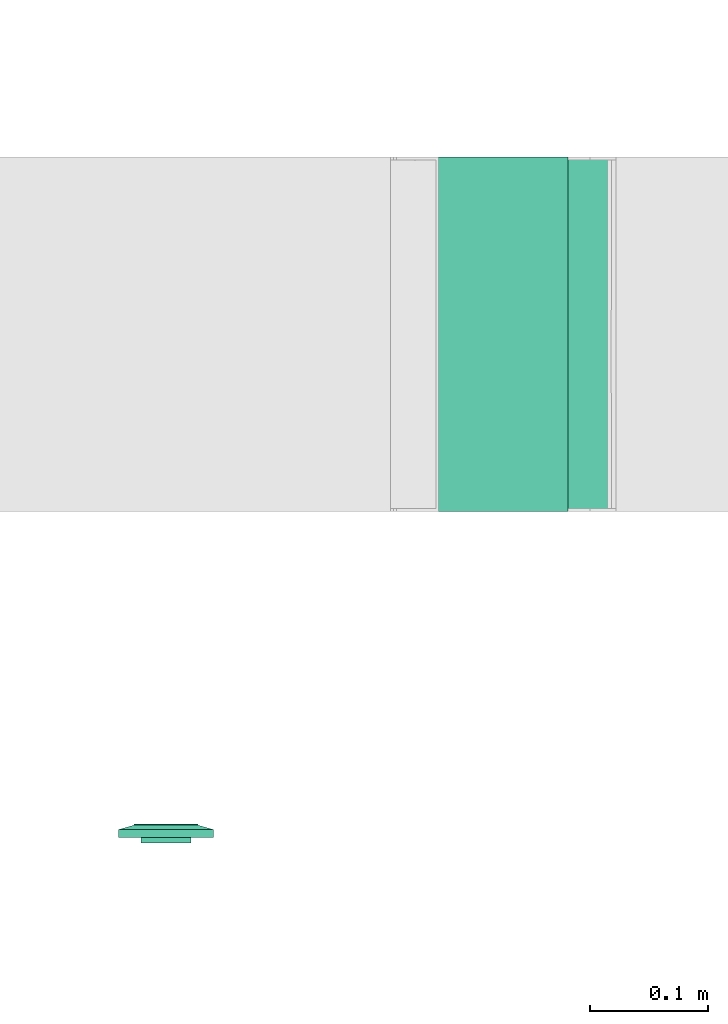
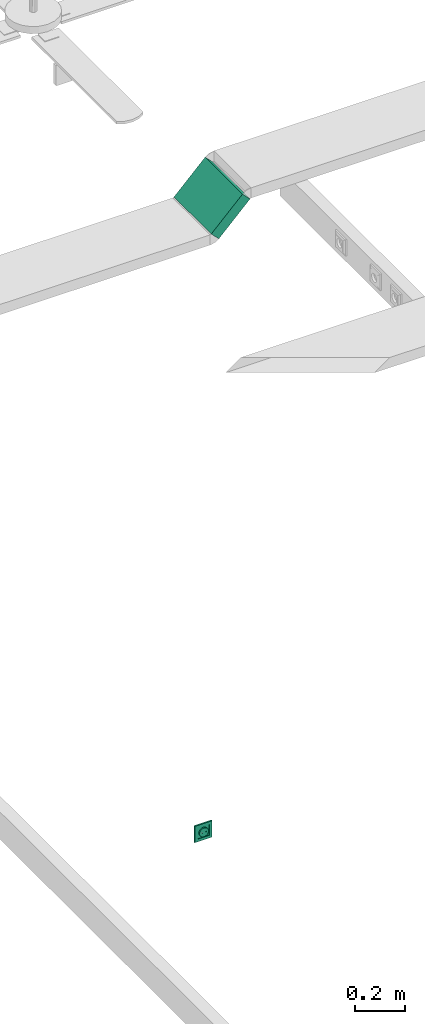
# One storey, part 28 of 166: 1 flow segment, 1 flow terminal.
"""IFC2X3 building model written with IfcOpenShell, lengths in metres."""

from ifc_helpers import new_model, entity, si_unit, converted_unit, derived_unit, direction, frame, frame_2d, origin, place, context, subcontext, project, spatial, rectangle, extrude, face_set, surface_model, source, transform, mapped, type_object, type_shapes, element, save


model = new_model("IFC2X3")

# Units and contexts
model_context = context("Model", 3, precision=1e-05, world=origin(), true_north=direction((6.12303176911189e-17, 1.0)))
body_context = subcontext(model_context, "Body", "Model", "MODEL_VIEW")
ifc_project = project(units=[si_unit("LENGTHUNIT", "METRE"), si_unit("AREAUNIT", "SQUARE_METRE"), si_unit("VOLUMEUNIT", "CUBIC_METRE"), converted_unit("PLANEANGLEUNIT", "DEGREE", entity("IfcRatioMeasure", 0.0174532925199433), si_unit("PLANEANGLEUNIT", "RADIAN"), dimensions=[0, 0, 0, 0, 0, 0, 0]), si_unit("MASSUNIT", "GRAM", prefix="KILO"), derived_unit("MASSDENSITYUNIT", [(si_unit("MASSUNIT", "GRAM", prefix="KILO"), 1), (si_unit("LENGTHUNIT", "METRE"), -3)]), si_unit("TIMEUNIT", "SECOND"), si_unit("FREQUENCYUNIT", "HERTZ"), si_unit("THERMODYNAMICTEMPERATUREUNIT", "DEGREE_CELSIUS"), derived_unit("THERMALTRANSMITTANCEUNIT", [(si_unit("MASSUNIT", "GRAM", prefix="KILO"), 1), (si_unit("THERMODYNAMICTEMPERATUREUNIT", "KELVIN"), -1), (si_unit("TIMEUNIT", "SECOND"), -3)]), derived_unit("VOLUMETRICFLOWRATEUNIT", [(si_unit("LENGTHUNIT", "METRE"), 3), (si_unit("TIMEUNIT", "SECOND"), -1)]), si_unit("ELECTRICCURRENTUNIT", "AMPERE"), si_unit("ELECTRICVOLTAGEUNIT", "VOLT"), si_unit("POWERUNIT", "WATT"), si_unit("FORCEUNIT", "NEWTON"), si_unit("ILLUMINANCEUNIT", "LUX"), si_unit("LUMINOUSFLUXUNIT", "LUMEN"), si_unit("LUMINOUSINTENSITYUNIT", "CANDELA"), derived_unit("USERDEFINED", [(si_unit("MASSUNIT", "GRAM", prefix="KILO"), -1), (si_unit("LENGTHUNIT", "METRE"), -2), (si_unit("TIMEUNIT", "SECOND"), 3), (si_unit("LUMINOUSFLUXUNIT", "LUMEN"), 1)]), derived_unit("LINEARVELOCITYUNIT", [(si_unit("LENGTHUNIT", "METRE"), 1), (si_unit("TIMEUNIT", "SECOND"), -1)]), si_unit("PRESSUREUNIT", "PASCAL"), derived_unit("USERDEFINED", [(si_unit("LENGTHUNIT", "METRE"), -2), (si_unit("MASSUNIT", "GRAM", prefix="KILO"), 1), (si_unit("TIMEUNIT", "SECOND"), -2)])], contexts=[model_context])

# Site, building, storey
site_placement = place(None, origin())
site = spatial("IfcSite", under=ifc_project, at=site_placement, Name="Default", CompositionType="ELEMENT")
building_placement = place(site_placement, origin())
building = spatial("IfcBuilding", under=site, at=building_placement, CompositionType="ELEMENT")
storey_placement = place(building_placement, frame((0.0, 0.0, 4.27)))
storey = spatial("IfcBuildingStorey", under=building, at=storey_placement, Name="01", CompositionType="ELEMENT", Elevation=4.27)

# Flow segment
cable_carrier_segment_type = type_object("IfcCableCarrierSegmentType", Name="Cable Tray with Fittings:Chemins de câbles en treillis_Chemins de câbles en treillis", PredefinedType="NOTDEFINED")
flow_segment_placement = place(storey_placement, origin())
element("IfcFlowSegment", 1, at=flow_segment_placement, inside=storey, type_object=cable_carrier_segment_type, Name="Cable Tray with Fittings:Chemins de câbles en treillis_Chemins de câbles en treillis", ObjectType="Cable Tray with Fittings:Chemins de câbles en treillis_Chemins de câbles en treillis", context=body_context, shape_type="SweptSolid", body=[
    extrude(rectangle(XDim=0.0500000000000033, YDim=0.205056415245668, at=frame_2d((1.9151347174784e-15, 1.15012166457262e-15), x_axis=(0.0, 1.0))), frame((27.4054012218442, -188.237883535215, 2.7529732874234), z_axis=(0.0, 1.0, 0.0), x_axis=(-0.707106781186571, 0.0, -0.707106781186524)), (0.0, 0.0, 1.0), 0.300000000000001),
])

# Flow terminal
light_fixture_type = type_object("IfcLightFixtureType", Name="Attente", PredefinedType="NOTDEFINED")
shared_shape = source(origin(), body_context, "Body", "SurfaceModel", [
    surface_model("IfcFaceBasedSurfaceModel", [(0.00225000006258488, 0.00949633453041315, 0.0127499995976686), (0.0, 0.00949633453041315, 0.0104999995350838), (0.0, 0.0101656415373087, 0.0115376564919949), (0.0, 0.0101656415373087, 0.0139623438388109), (0.0, 0.00984531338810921, 0.0144589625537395), (0.0, 0.0102778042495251, 0.0121178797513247), (0.0, 0.0102778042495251, 0.0133821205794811), (0.0, 0.010399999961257, 0.0127499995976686), (0.0, 0.00949633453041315, 0.0149999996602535), (-0.00225000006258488, 0.00949633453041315, 0.0127499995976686), (0.0, 0.00984531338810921, 0.0110410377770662), (0.0, 0.00949633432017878, 0.0127499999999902), (-0.0022499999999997, 0.0094963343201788, 0.0127499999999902), (-0.00217333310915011, 0.00949633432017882, 0.0121676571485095), (-0.0019485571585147, 0.00949633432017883, 0.0116249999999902), (-0.00159099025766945, 0.00949633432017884, 0.0111590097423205), (-0.00112499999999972, 0.00949633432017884, 0.0108014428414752), (-0.000582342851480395, 0.00949633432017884, 0.0105766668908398), (0.0, 0.00949633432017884, 0.0104999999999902), (0.000582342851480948, 0.00949633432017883, 0.0105766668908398), (0.00112500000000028, 0.00949633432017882, 0.0108014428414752), (0.00159099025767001, 0.00949633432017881, 0.0111590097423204), (0.00194855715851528, 0.00949633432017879, 0.0116249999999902), (0.0021733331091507, 0.00949633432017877, 0.0121676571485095), (0.0022500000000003, 0.00949633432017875, 0.0127499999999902), (0.00217333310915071, 0.00949633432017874, 0.0133323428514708), (0.0019485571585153, 0.00949633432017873, 0.0138749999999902), (0.00159099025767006, 0.00949633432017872, 0.0143409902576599), (0.00112500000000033, 0.00949633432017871, 0.0146985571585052), (0.000582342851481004, 0.00949633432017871, 0.0149233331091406), (0.0, 0.00949633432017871, 0.0149999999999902), (-0.000582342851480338, 0.00949633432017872, 0.0149233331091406), (-0.00112499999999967, 0.00949633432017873, 0.0146985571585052), (-0.00159099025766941, 0.00949633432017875, 0.0143409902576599), (-0.00194855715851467, 0.00949633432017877, 0.0138749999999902), (-0.00217333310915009, 0.00949633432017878, 0.0133323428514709), (-0.00224999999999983, -0.00360000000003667, 0.0127499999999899), (-0.00217333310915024, -0.00360000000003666, 0.0121676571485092), (-0.00194855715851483, -0.00360000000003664, 0.0116249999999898), (-0.00159099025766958, -0.00360000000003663, 0.0111590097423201), (-0.00112499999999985, -0.00360000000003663, 0.0108014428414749), (-0.000582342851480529, -0.00360000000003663, 0.0105766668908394), (0.0, -0.00360000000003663, 0.0104999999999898), (0.000582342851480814, -0.00360000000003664, 0.0105766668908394), (0.00112500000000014, -0.00360000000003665, 0.0108014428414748), (0.00159099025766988, -0.00360000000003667, 0.0111590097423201), (0.00194855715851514, -0.00360000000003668, 0.0116249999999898), (0.00217333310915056, -0.0036000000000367, 0.0121676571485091), (0.00225000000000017, -0.00360000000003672, 0.0127499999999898), (0.00217333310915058, -0.00360000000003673, 0.0133323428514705), (0.00194855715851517, -0.00360000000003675, 0.0138749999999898), (0.00159099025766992, -0.00360000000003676, 0.0143409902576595), (0.00112500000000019, -0.00360000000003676, 0.0146985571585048), (0.00058234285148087, -0.00360000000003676, 0.0149233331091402), (0.0, -0.00360000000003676, 0.0149999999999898), (-0.000582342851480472, -0.00360000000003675, 0.0149233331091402), (-0.0011249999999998, -0.00360000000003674, 0.0146985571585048), (-0.00159099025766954, -0.00360000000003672, 0.0143409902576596), (-0.0019485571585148, -0.00360000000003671, 0.0138749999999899), (-0.00217333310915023, -0.00360000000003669, 0.0133323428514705), (-0.0270000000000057, 0.0113999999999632, 0.0269999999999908), (0.0269999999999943, 0.0113999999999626, 0.0269999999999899), (0.0269999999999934, 0.0113999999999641, -0.0270000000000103), (-0.0270000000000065, 0.0113999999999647, -0.0270000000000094), (0.0199999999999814, 0.0113999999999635, 0.0), (0.0193185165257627, 0.0113999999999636, -0.00517638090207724), (0.0173205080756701, 0.0113999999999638, -0.0100000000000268), (0.0141421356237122, 0.0113999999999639, -0.0141421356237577), (0.00999999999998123, 0.011399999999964, -0.0173205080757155), (0.00517638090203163, 0.0113999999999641, -0.019318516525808), (0.0, 0.0113999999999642, -0.0200000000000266), (-0.00517638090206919, 0.0113999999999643, -0.0193185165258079), (-0.0100000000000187, 0.0113999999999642, -0.0173205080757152), (-0.0141421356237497, 0.0113999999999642, -0.0141421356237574), (-0.0173205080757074, 0.0113999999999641, -0.0100000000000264), (-0.0193185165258, 0.011399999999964, -0.0051763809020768), (-0.0200000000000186, 0.0113999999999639, 0.0), (-0.0193185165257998, 0.0113999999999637, 0.00517638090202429), (-0.0173205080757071, 0.0113999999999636, 0.00999999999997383), (-0.0141421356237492, 0.0113999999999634, 0.0141421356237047), (-0.0100000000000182, 0.0113999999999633, 0.0173205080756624), (-0.00517638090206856, 0.0113999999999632, 0.0193185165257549), (0.0, 0.0113999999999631, 0.0199999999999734), (0.00517638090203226, 0.0113999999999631, 0.0193185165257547), (0.0099999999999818, 0.0113999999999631, 0.017320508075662), (0.0141421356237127, 0.0113999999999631, 0.0141421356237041), (0.0173205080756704, 0.0113999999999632, 0.00999999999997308), (0.0193185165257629, 0.0113999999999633, 0.00517638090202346), (-0.0270000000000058, 0.00199999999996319, 0.0269999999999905), (-0.0270000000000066, 0.00199999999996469, -0.0270000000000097), (0.0269999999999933, 0.00199999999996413, -0.0270000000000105), (0.0269999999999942, 0.00199999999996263, 0.0269999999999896), (-0.0210000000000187, 0.00199999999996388, 0.0), (-0.0202844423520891, 0.00199999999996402, -0.00543519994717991), (-0.0181865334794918, 0.00199999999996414, -0.0105000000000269), (-0.0148492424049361, 0.00199999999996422, -0.0148492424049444), (-0.0105000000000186, 0.00199999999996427, -0.0181865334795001), (-0.00543519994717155, 0.00199999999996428, -0.0202844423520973), (0.0, 0.00199999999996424, -0.0210000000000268), (0.00543519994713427, 0.00199999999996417, -0.0202844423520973), (0.0104999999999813, 0.00199999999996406, -0.0181865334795), (0.0148492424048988, 0.00199999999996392, -0.0148492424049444), (0.0181865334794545, 0.00199999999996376, -0.0105000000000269), (0.0202844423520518, 0.0019999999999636, -0.00543519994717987), (0.0209999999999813, 0.00199999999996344, 0.0), (0.0202844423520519, 0.0019999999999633, 0.0054351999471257), (0.0181865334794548, 0.00199999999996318, 0.0104999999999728), (0.0148492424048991, 0.00199999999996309, 0.0148492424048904), (0.0104999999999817, 0.00199999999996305, 0.0181865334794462), (0.00543519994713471, 0.00199999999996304, 0.0202844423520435), (0.0, 0.00199999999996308, 0.0209999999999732), (-0.00543519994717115, 0.00199999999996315, 0.0202844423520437), (-0.0105000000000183, 0.00199999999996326, 0.0181865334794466), (-0.0148492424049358, 0.0019999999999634, 0.014849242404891), (-0.0181865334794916, 0.00199999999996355, 0.0104999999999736), (-0.020284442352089, 0.00199999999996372, 0.00543519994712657), (-0.0200000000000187, -0.00360000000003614, 0.0), (-0.0193185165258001, -0.003600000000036, -0.00517638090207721), (-0.0173205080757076, -0.00360000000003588, -0.0100000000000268), (-0.0141421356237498, -0.0036000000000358, -0.0141421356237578), (-0.0100000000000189, -0.00360000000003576, -0.0173205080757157), (-0.00517638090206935, -0.00360000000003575, -0.0193185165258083), (0.0, -0.00360000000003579, -0.020000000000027), (0.00517638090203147, -0.00360000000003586, -0.0193185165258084), (0.00999999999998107, -0.00360000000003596, -0.0173205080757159), (0.0141421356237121, -0.00360000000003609, -0.0141421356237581), (0.0173205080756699, -0.00360000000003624, -0.0100000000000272), (0.0193185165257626, -0.0036000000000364, -0.00517638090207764), (0.0199999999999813, -0.00360000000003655, 0.0), (0.0193185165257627, -0.00360000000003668, 0.00517638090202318), (0.0173205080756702, -0.0036000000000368, 0.00999999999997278), (0.0141421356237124, -0.00360000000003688, 0.0141421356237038), (0.00999999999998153, -0.00360000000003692, 0.0173205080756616), (0.00517638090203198, -0.00360000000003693, 0.0193185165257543), (0.0, -0.0036000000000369, 0.019999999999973), (-0.00517638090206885, -0.00360000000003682, 0.0193185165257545), (-0.0100000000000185, -0.00360000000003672, 0.0173205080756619), (-0.0141421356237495, -0.00360000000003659, 0.0141421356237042), (-0.0173205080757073, -0.00360000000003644, 0.00999999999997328), (-0.0193185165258, -0.00360000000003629, 0.00517638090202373), (0.0123499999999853, -0.00360000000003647, 0.0), (0.0122562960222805, -0.00360000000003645, -0.000711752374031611), (0.0119815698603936, -0.00360000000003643, -0.00137499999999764), (0.0115445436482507, -0.00360000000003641, -0.00194454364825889), (0.0109749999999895, -0.00360000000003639, -0.00238156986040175), (0.0103117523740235, -0.00360000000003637, -0.00265629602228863), (0.00959999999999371, -0.00360000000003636, -0.00274999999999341), (0.00888824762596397, -0.00360000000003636, -0.00265629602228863), (0.00822499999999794, -0.00360000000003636, -0.00238156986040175), (0.00765545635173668, -0.00360000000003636, -0.00194454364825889), (0.00721843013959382, -0.00360000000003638, -0.00137499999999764), (0.00694370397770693, -0.00360000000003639, -0.000711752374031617), (0.00685000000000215, -0.00360000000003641, 0.0), (0.00694370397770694, -0.00360000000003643, 0.000711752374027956), (0.00721843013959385, -0.00360000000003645, 0.00137499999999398), (0.00765545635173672, -0.00360000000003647, 0.00194454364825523), (0.00822499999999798, -0.00360000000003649, 0.00238156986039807), (0.00888824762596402, -0.00360000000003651, 0.00265629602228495), (0.00959999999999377, -0.00360000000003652, 0.0027499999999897), (0.0103117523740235, -0.00360000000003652, 0.00265629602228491), (0.0109749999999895, -0.00360000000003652, 0.00238156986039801), (0.0115445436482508, -0.00360000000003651, 0.00194454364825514), (0.0119815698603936, -0.0036000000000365, 0.00137499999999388), (0.0122562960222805, -0.00360000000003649, 0.000711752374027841), (-0.00685000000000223, -0.00360000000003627, 0.0), (-0.00694370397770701, -0.00360000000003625, -0.000711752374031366), (-0.0072184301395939, -0.00360000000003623, -0.00137499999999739), (-0.00765545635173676, -0.00360000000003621, -0.00194454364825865), (-0.00822499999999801, -0.00360000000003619, -0.0023815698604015), (-0.00888824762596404, -0.00360000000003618, -0.00265629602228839), (-0.00959999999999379, -0.00360000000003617, -0.00274999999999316), (-0.0103117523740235, -0.00360000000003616, -0.00265629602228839), (-0.0109749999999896, -0.00360000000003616, -0.00238156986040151), (-0.0115445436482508, -0.00360000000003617, -0.00194454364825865), (-0.0119815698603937, -0.00360000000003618, -0.0013749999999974), (-0.0122562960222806, -0.0036000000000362, -0.000711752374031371), (-0.0123499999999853, -0.00360000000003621, 0.0), (-0.0122562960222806, -0.00360000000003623, 0.000711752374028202), (-0.0119815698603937, -0.00360000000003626, 0.00137499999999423), (-0.0115445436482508, -0.00360000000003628, 0.00194454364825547), (-0.0109749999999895, -0.00360000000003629, 0.00238156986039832), (-0.0103117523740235, -0.00360000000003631, 0.00265629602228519), (-0.00959999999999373, -0.00360000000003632, 0.00274999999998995), (-0.00888824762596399, -0.00360000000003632, 0.00265629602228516), (-0.00822499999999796, -0.00360000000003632, 0.00238156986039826), (-0.00765545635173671, -0.00360000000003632, 0.00194454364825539), (-0.00721843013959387, -0.0036000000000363, 0.00137499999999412), (-0.00694370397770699, -0.00360000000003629, 0.000711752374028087), (-0.0210000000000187, -0.00460000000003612, 0.0), (-0.0202844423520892, -0.00460000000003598, -0.00543519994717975), (-0.018186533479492, -0.00460000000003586, -0.0105000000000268), (-0.0148492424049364, -0.00460000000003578, -0.0148492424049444), (-0.0105000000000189, -0.00460000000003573, -0.0181865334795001), (-0.00543519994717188, -0.00460000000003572, -0.0202844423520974), (0.0, -0.00460000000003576, -0.021000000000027), (0.00543519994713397, -0.00460000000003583, -0.0202844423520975), (0.0104999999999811, -0.00460000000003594, -0.0181865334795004), (0.0148492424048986, -0.00460000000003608, -0.0148492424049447), (0.0181865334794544, -0.00460000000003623, -0.0105000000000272), (0.0202844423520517, -0.0046000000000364, -0.0054351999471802), (0.0209999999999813, -0.00460000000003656, 0.0), (0.0202844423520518, -0.0046000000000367, 0.00543519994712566), (0.0181865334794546, -0.00460000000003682, 0.0104999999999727), (0.014849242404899, -0.00460000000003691, 0.0148492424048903), (0.0104999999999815, -0.00460000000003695, 0.0181865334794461), (0.0054351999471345, -0.00460000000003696, 0.0202844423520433), (0.0, -0.00460000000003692, 0.020999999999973), (-0.00543519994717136, -0.00460000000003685, 0.0202844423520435), (-0.0105000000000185, -0.00460000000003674, 0.0181865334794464), (-0.014849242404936, -0.0046000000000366, 0.0148492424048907), (-0.0181865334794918, -0.00460000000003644, 0.0104999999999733), (-0.0202844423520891, -0.00460000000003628, 0.00543519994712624), (0.00685000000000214, -0.00460000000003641, 0.0), (0.00694370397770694, -0.00460000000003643, 0.000711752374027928), (0.00721843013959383, -0.00460000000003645, 0.00137499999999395), (0.0076554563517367, -0.00460000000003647, 0.0019445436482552), (0.00822499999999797, -0.00460000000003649, 0.00238156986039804), (0.00888824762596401, -0.0046000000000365, 0.00265629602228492), (0.00959999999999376, -0.00460000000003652, 0.00274999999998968), (0.0103117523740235, -0.00460000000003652, 0.00265629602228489), (0.0109749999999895, -0.00460000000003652, 0.00238156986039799), (0.0115445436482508, -0.00460000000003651, 0.00194454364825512), (0.0119815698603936, -0.0046000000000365, 0.00137499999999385), (0.0122562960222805, -0.00460000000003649, 0.000711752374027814), (0.0123499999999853, -0.00460000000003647, 0.0), (0.0122562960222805, -0.00460000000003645, -0.00071175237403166), (0.0119815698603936, -0.00460000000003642, -0.00137499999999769), (0.0115445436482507, -0.0046000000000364, -0.00194454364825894), (0.0109749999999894, -0.00460000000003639, -0.00238156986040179), (0.0103117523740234, -0.00460000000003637, -0.00265629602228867), (0.00959999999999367, -0.00460000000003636, -0.00274999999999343), (0.00888824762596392, -0.00460000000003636, -0.00265629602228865), (0.00822499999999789, -0.00460000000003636, -0.00238156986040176), (0.00765545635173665, -0.00460000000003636, -0.00194454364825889), (0.00721843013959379, -0.00460000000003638, -0.00137499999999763), (0.00694370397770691, -0.00460000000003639, -0.0007117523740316), (-0.0123499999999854, -0.00460000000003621, 0.0), (-0.0122562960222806, -0.00460000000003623, 0.000711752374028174), (-0.0119815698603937, -0.00460000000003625, 0.0013749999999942), (-0.0115445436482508, -0.00460000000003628, 0.00194454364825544), (-0.0109749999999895, -0.00460000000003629, 0.00238156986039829), (-0.0103117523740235, -0.00460000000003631, 0.00265629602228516), (-0.00959999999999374, -0.00460000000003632, 0.00274999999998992), (-0.008888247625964, -0.00460000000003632, 0.00265629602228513), (-0.00822499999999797, -0.00460000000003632, 0.00238156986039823), (-0.00765545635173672, -0.00460000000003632, 0.00194454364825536), (-0.00721843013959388, -0.0046000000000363, 0.0013749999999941), (-0.006943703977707, -0.00460000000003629, 0.000711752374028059), (-0.00685000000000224, -0.00460000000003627, 0.0), (-0.00694370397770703, -0.00460000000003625, -0.000711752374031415), (-0.00721843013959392, -0.00460000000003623, -0.00137499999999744), (-0.00765545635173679, -0.00460000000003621, -0.00194454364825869), (-0.00822499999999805, -0.00460000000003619, -0.00238156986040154), (-0.00888824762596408, -0.00460000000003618, -0.00265629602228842), (-0.00959999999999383, -0.00460000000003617, -0.00274999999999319), (-0.0103117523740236, -0.00460000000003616, -0.00265629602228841), (-0.0109749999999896, -0.00460000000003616, -0.00238156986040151), (-0.0115445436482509, -0.00460000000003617, -0.00194454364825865), (-0.0119815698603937, -0.00460000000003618, -0.00137499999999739), (-0.0122562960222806, -0.00460000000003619, -0.000711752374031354), (-0.0403499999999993, 0.00659999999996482, 0.0403499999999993), (-0.0403500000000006, 0.00659999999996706, -0.0403500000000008), (0.0403499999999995, 0.00659999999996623, -0.0403500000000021), (0.0403500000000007, 0.00659999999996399, 0.040349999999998), (-0.0269999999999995, 0.00659999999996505, 0.026999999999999), (0.0270000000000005, 0.0065999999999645, 0.0269999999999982), (0.0269999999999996, 0.006599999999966, -0.0270000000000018), (-0.0270000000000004, 0.00659999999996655, -0.027000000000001), (-0.0269999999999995, 0.0103999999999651, 0.0269999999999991), (0.0270000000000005, 0.0103999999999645, 0.0269999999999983), (0.0269999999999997, 0.010399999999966, -0.0270000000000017), (-0.0270000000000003, 0.0103999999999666, -0.0270000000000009), (-0.0403499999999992, 0.00659999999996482, 0.0403499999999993), (-0.0403500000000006, 0.00659999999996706, -0.0403500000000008), (0.0403499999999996, 0.00659999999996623, -0.0403500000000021), (0.0403500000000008, 0.00659999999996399, 0.040349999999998), (0.0270000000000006, 0.0065999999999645, 0.0269999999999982), (0.0269999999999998, 0.006599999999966, -0.0270000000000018), (-0.0270000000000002, 0.00659999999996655, -0.027000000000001), (-0.0269999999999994, 0.00659999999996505, 0.026999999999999), (-0.0403499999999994, 0.0, 0.0403499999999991), (-0.0403500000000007, 0.0, -0.040350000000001), (0.0403499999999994, 0.0, -0.0403500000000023), (0.0403500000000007, 0.0, 0.0403499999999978), (-0.0269999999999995, 0.0, 0.0269999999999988), (0.0270000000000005, 0.0, 0.026999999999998), (0.0269999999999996, 0.0, -0.027000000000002), (-0.0270000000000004, 0.0, -0.0270000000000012)], [face_set([[[0, 1, 2]], [[3, 4, 2, 5]], [[6, 3, 5, 7]], [[2, 4, 0]], [[4, 8, 0]], [[3, 9, 8]], [[1, 9, 10]], [[2, 3, 6, 7]], [[3, 10, 9]], [[2, 10, 3]], [[11, 1, 0, 8]], [[11, 8, 9, 1]]]), face_set([[[12, 13, 14, 15, 16, 17, 18, 19, 20, 21, 22, 23, 24, 25, 26, 27, 28, 29, 30, 31, 32, 33, 34, 35]], [[36, 37, 38, 39, 40, 41, 42, 43, 44, 45, 46, 47, 48, 49, 50, 51, 52, 53, 54, 55, 56, 57, 58, 59]], [[48, 47, 23, 24]], [[47, 46, 22, 23]], [[45, 44, 20, 21]], [[46, 45, 21, 22]], [[44, 43, 19, 20]], [[18, 19, 43, 42]], [[42, 41, 17, 18]], [[41, 40, 16, 17]], [[39, 38, 14, 15]], [[40, 39, 15, 16]], [[38, 37, 13, 14]], [[12, 13, 37, 36]], [[36, 59, 35, 12]], [[59, 58, 34, 35]], [[57, 56, 32, 33]], [[58, 57, 33, 34]], [[56, 55, 31, 32]], [[30, 31, 55, 54]], [[54, 53, 29, 30]], [[53, 52, 28, 29]], [[51, 50, 26, 27]], [[52, 51, 27, 28]], [[50, 49, 25, 26]], [[24, 25, 49, 48]]]), face_set([[[60, 61, 62, 63], [64, 65, 66, 67, 68, 69, 70, 71, 72, 73, 74, 75, 76, 77, 78, 79, 80, 81, 82, 83, 84, 85, 86, 87]], [[88, 89, 90, 91], [92, 93, 94, 95, 96, 97, 98, 99, 100, 101, 102, 103, 104, 105, 106, 107, 108, 109, 110, 111, 112, 113, 114, 115]], [[61, 60, 88, 91]], [[62, 61, 91, 90]], [[63, 62, 90, 89]], [[60, 63, 89, 88]], [[116, 117, 118, 119, 120, 121, 122, 123, 124, 125, 126, 127, 128, 129, 130, 131, 132, 133, 134, 135, 136, 137, 138, 139], [140, 141, 142, 143, 144, 145, 146, 147, 148, 149, 150, 151, 152, 153, 154, 155, 156, 157, 158, 159, 160, 161, 162, 163], [164, 165, 166, 167, 168, 169, 170, 171, 172, 173, 174, 175, 176, 177, 178, 179, 180, 181, 182, 183, 184, 185, 186, 187]], [[64, 128, 127, 65]], [[65, 127, 126, 66]], [[67, 125, 124, 68]], [[66, 126, 125, 67]], [[68, 124, 123, 69]], [[122, 70, 69, 123]], [[70, 122, 121, 71]], [[71, 121, 120, 72]], [[73, 119, 118, 74]], [[72, 120, 119, 73]], [[74, 118, 117, 75]], [[116, 76, 75, 117]], [[76, 116, 139, 77]], [[77, 139, 138, 78]], [[79, 137, 136, 80]], [[78, 138, 137, 79]], [[80, 136, 135, 81]], [[134, 82, 81, 135]], [[82, 134, 133, 83]], [[83, 133, 132, 84]], [[84, 132, 131, 85]], [[85, 131, 130, 86]], [[130, 129, 87, 86]], [[64, 87, 129, 128]], [[188, 189, 190, 191, 192, 193, 194, 195, 196, 197, 198, 199, 200, 201, 202, 203, 204, 205, 206, 207, 208, 209, 210, 211], [212, 213, 214, 215, 216, 217, 218, 219, 220, 221, 222, 223, 224, 225, 226, 227, 228, 229, 230, 231, 232, 233, 234, 235], [236, 237, 238, 239, 240, 241, 242, 243, 244, 245, 246, 247, 248, 249, 250, 251, 252, 253, 254, 255, 256, 257, 258, 259]], [[200, 199, 103, 104]], [[199, 198, 102, 103]], [[197, 196, 100, 101]], [[198, 197, 101, 102]], [[196, 195, 99, 100]], [[98, 99, 195, 194]], [[194, 193, 97, 98]], [[193, 192, 96, 97]], [[191, 190, 94, 95]], [[192, 191, 95, 96]], [[190, 189, 93, 94]], [[92, 93, 189, 188]], [[188, 211, 115, 92]], [[211, 210, 114, 115]], [[209, 208, 112, 113]], [[210, 209, 113, 114]], [[208, 207, 111, 112]], [[110, 111, 207, 206]], [[206, 205, 109, 110]], [[205, 204, 108, 109]], [[203, 202, 106, 107]], [[204, 203, 107, 108]], [[202, 201, 105, 106]], [[104, 105, 201, 200]], [[141, 225, 226, 142]], [[140, 224, 225, 141]], [[144, 228, 229, 145]], [[143, 227, 228, 144]], [[142, 226, 227, 143]], [[230, 146, 145, 229]], [[149, 233, 232, 148]], [[148, 232, 231, 147]], [[152, 212, 235, 151]], [[151, 235, 234, 150]], [[150, 234, 233, 149]], [[146, 230, 231, 147]], [[154, 214, 213, 153]], [[153, 213, 212, 152]], [[157, 217, 216, 156]], [[156, 216, 215, 155]], [[155, 215, 214, 154]], [[218, 158, 157, 217]], [[160, 220, 221, 161]], [[159, 219, 220, 160]], [[163, 223, 224, 140]], [[162, 222, 223, 163]], [[161, 221, 222, 162]], [[158, 218, 219, 159]], [[166, 250, 249, 165]], [[165, 249, 248, 164]], [[169, 253, 252, 168]], [[168, 252, 251, 167]], [[167, 251, 250, 166]], [[254, 170, 169, 253]], [[172, 256, 257, 173]], [[171, 255, 256, 172]], [[175, 259, 236, 176]], [[174, 258, 259, 175]], [[173, 257, 258, 174]], [[170, 254, 255, 171]], [[177, 237, 238, 178]], [[176, 236, 237, 177]], [[180, 240, 241, 181]], [[179, 239, 240, 180]], [[178, 238, 239, 179]], [[242, 182, 181, 241]], [[185, 245, 244, 184]], [[184, 244, 243, 183]], [[164, 248, 247, 187]], [[187, 247, 246, 186]], [[186, 246, 245, 185]], [[182, 242, 243, 183]]]), face_set([[[260, 261, 262, 263], [264, 265, 266, 267]], [[260, 268, 269, 263]], [[263, 269, 270, 262]], [[262, 270, 271, 261]], [[261, 271, 268, 260]], [[264, 265, 269, 268]], [[265, 266, 270, 269]], [[266, 267, 271, 270]], [[268, 271, 267, 264]]]), face_set([[[272, 273, 274, 275], [276, 277, 278, 279]], [[280, 281, 282, 283], [284, 285, 286, 287]], [[275, 272, 280, 283]], [[274, 275, 283, 282]], [[273, 274, 282, 281]], [[272, 273, 281, 280]], [[284, 285, 276, 279]], [[285, 286, 277, 276]], [[286, 287, 278, 277]], [[279, 278, 287, 284]]])]),
])
type_shapes(light_fixture_type, [shared_shape])
flow_terminal_placement = place(storey_placement, frame((27.120145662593, -188.513469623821, 0.0)))
element("IfcFlowTerminal", 2, at=flow_terminal_placement, inside=storey, type_object=light_fixture_type, Name="INT_Attente électrique:Attente", ObjectType="INT_Attente électrique:Attente", context=body_context, shape_type="MappedRepresentation", body=[
    mapped(shared_shape, transform((0.0, 0.0, 0.0), scale=1.0)),
])

save(model, "model.ifc")
